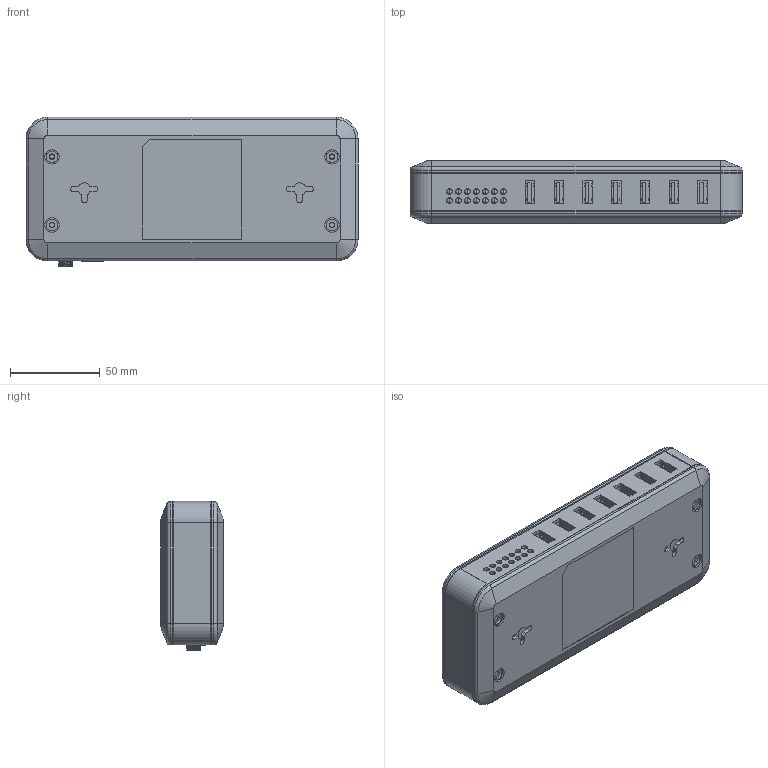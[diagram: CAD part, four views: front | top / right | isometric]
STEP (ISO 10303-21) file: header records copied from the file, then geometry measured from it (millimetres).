
FILE_DESCRIPTION((''),'2;1');
FILE_NAME('UPORT_207_3D','2013-12-28T',('Vincent_Huang'),(''),'PRO/ENGINEER BY PARAMETRIC TECHNOLOGY CORPORATION, 2004320','PRO/ENGINEER BY PARAMETRIC TECHNOLOGY CORPORATION, 2004320','');
FILE_SCHEMA(('CONFIG_CONTROL_DESIGN'));
Length unit declared in the file: millimetre
Products named in the file (1): UPORT_207_3D
Bounding box: 185 x 35 x 83.2 mm (x, y, z)
Volume: 122874 mm3; surface area: 156362 mm2
Topology: 9 solids, 12 shells, 1985 faces, 5439 edges, 3566 vertices
Faces by surface type: plane 1139, cylinder 786, bspline 36, cone 16, torus 8
Entity records: 65659 total; most frequent: CARTESIAN_POINT 13483, ORIENTED_EDGE 10870, DIRECTION 10806, EDGE_CURVE 5439, VECTOR 3750, LINE 3750, VERTEX_POINT 3566, AXIS2_PLACEMENT_3D 3528
